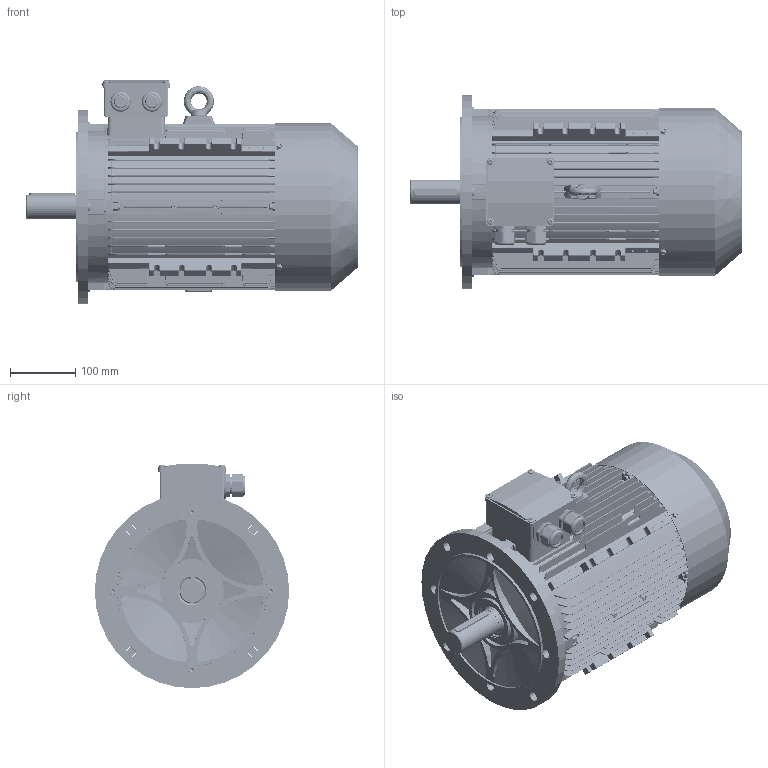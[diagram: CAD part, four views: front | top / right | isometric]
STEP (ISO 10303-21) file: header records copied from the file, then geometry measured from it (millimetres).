
FILE_DESCRIPTION (( 'STEP AP203' ), '1' );
FILE_NAME ('IE3 132M B5.STEP', '2018-07-17T07:02:43', ( 'admin' ), ( '' ), 'SwSTEP 2.0', 'SolidWorks 2014', '' );
FILE_SCHEMA (( 'CONFIG_CONTROL_DESIGN' ));
Length unit declared in the file: millimetre
Products named in the file (19): DMX-IE3 132S4  flange B5; DMX-IE3 132 oil seal; DMX-IE3 132 fan cover; IE3 132M B5; plain parallel keys_GB_CONNECTING_PIECE_KEYS_CSK 10X70; DMX-IE3 132 terminal base; eyebolts gb_GB_FASTENER_SCREWS_FRS M10-N; DMX-IE3 132 terimianl cover; spring lock washers--normal type gb_GB_FASTENER_WASHER_SW 8; DMX-IE3 132 casing ; hexagon socket head cap screws gb_GB_FASTENER_SCREWS_HSHCS M8X40-N; DMX-IE3 132 B3 Shield ; DMX-IE3 132 shaft cover; hexagon nuts grade c gb_GB_FASTENER_NUT_SNC1 M8-N; DMX-IE3 132shaft; hexagon flange head tapping screws gb_GB_SQUARE_AND_HEXAGON_TYPE137 ST4.8X9.5 C-N; deep groove ball bearings gb_Rolling bearings 6308 GB 276-94; cross recessed pan head screws gb_GB_CROSS_SCREWS_TYPE1 M5X12-12  H type-N; DMX-IE3 132 fan
Assembly tree (47 placements, depth 2):
  IE3 132M B5
    DMX-IE3 132 casing 
    DMX-IE3 132 B3 Shield 
    DMX-IE3 132shaft
    deep groove ball bearings gb_Rolling bearings 6308 GB 276-94  x2
    DMX-IE3 132 fan
    DMX-IE3 132 fan cover
    DMX-IE3 132 terminal base
    DMX-IE3 132 terimianl cover
    DMX-IE3 132 shaft cover  x2
    DMX-IE3 132 oil seal
    plain parallel keys_GB_CONNECTING_PIECE_KEYS_CSK 10X70
    eyebolts gb_GB_FASTENER_SCREWS_FRS M10-N
    spring lock washers--normal type gb_GB_FASTENER_WASHER_SW 8  x8
    hexagon socket head cap screws gb_GB_FASTENER_SCREWS_HSHCS M8X40-N  x8
    hexagon nuts grade c gb_GB_FASTENER_NUT_SNC1 M8-N  x8
    hexagon flange head tapping screws gb_GB_SQUARE_AND_HEXAGON_TYPE137 ST4.8X9.5 C-N  x4
    cross recessed pan head screws gb_GB_CROSS_SCREWS_TYPE1 M5X12-12  H type-N  x4
    DMX-IE3 132S4  flange B5
Bounding box: 509.04 x 298 x 344 mm (x, y, z)
Volume: 4336128 mm3; surface area: 1885085 mm2
Topology: 48 solids, 50 shells, 6968 faces, 18223 edges, 11167 vertices
Faces by surface type: plane 2375, cylinder 1983, bspline 1788, cone 465, torus 269, sphere 88
Entity records: 255306 total; most frequent: CARTESIAN_POINT 113671, ORIENTED_EDGE 32200, DIRECTION 24341, EDGE_CURVE 16100, VERTEX_POINT 9927, AXIS2_PLACEMENT_3D 8647, VECTOR 7047, LINE 7047
